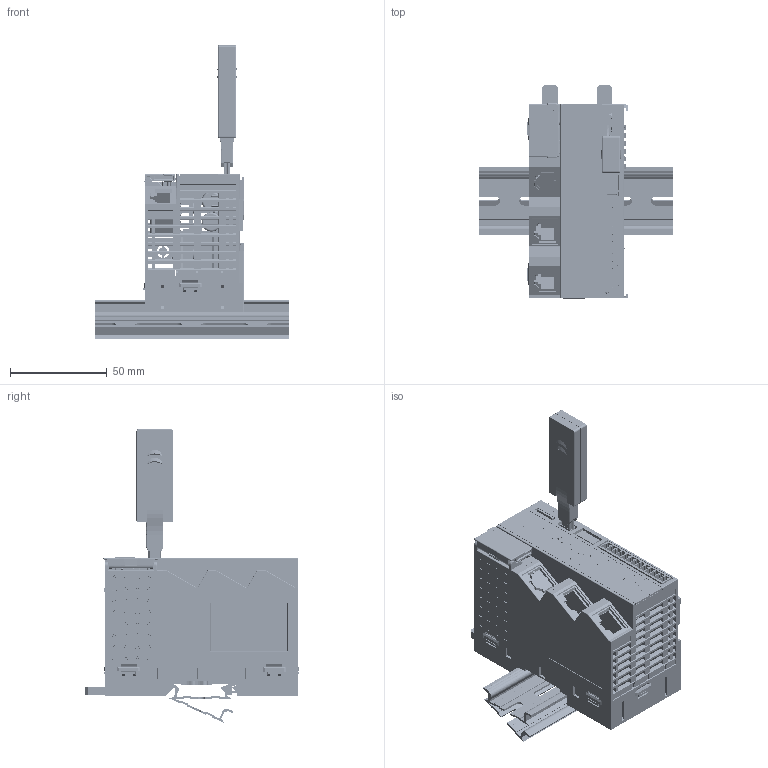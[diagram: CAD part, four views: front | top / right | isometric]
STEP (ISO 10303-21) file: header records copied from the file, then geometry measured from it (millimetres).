
FILE_DESCRIPTION((''),'2;1');
FILE_NAME('HCQ0-1200-D_ASM','2020-08-26T15:45:36',('杨沥'),(''),'CREO PARAMETRIC BY PTC INC, 2018050','CREO PARAMETRIC BY PTC INC, 2018050','');
FILE_SCHEMA(('AUTOMOTIVE_DESIGN { 1 0 10303 214 1 1 1 1 }'));
Products named in the file (172): HSMP2110000; HSMP2100000; HSMP2120000; HSMP2130000; HMSD1110000; HSMP1210000; CAO; HCQ0-1200-D-LOGO01; HCQX-EC01-D_SHELL-ALL_ASM; HCQ0-1200-D-PCB-POWER; MANIFOLD_SOLID_BREP_65422_1_6_1; MANIFOLD_SOLID_BREP_65421_1_2_1; MANIFOLD_SOLID_BREP_65426_1_2_1; MANIFOLD_SOLID_BREP_65427_1_2_1; MANIFOLD_SOLID_BREP_65428_1_2_1; MANIFOLD_SOLID_BREP_65429_1_2_1; MANIFOLD_SOLID_BREP_65432_1_2_1; MANIFOLD_SOLID_BREP_65430_1_2_1; MANIFOLD_SOLID_BREP_65437_1_3_1; KQ16A-6S_ASM; MANIFOLD_SOLID_BREP_140262; MANIFOLD_SOLID_BREP_140867; MANIFOLD_SOLID_BREP_141472; MANIFOLD_SOLID_BREP_142077; MANIFOLD_SOLID_BREP_142682; MANIFOLD_SOLID_BREP_143287; MANIFOLD_SOLID_BREP_143892; MANIFOLD_SOLID_BREP_144497; MANIFOLD_SOLID_BREP_145102; MANIFOLD_SOLID_BREP_145707; MANIFOLD_SOLID_BREP_146312; MANIFOLD_SOLID_BREP_146917; MANIFOLD_SOLID_BREP_147522; MANIFOLD_SOLID_BREP_148127; 15EDGRC-3_5-13P-13_ASM; FCD403-7M; MICEO_SD; MICRO-SD_CARD_CONNECTOR_ASM; MANIFOLD_SOLID_BREP_39083_1; MANIFOLD_SOLID_BREP_39084_1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
Assembly tree (205 placements, depth 4):
  HCQ0-1200-D_ASM
    HCQX-EC01-D_SHELL-ALL_ASM
      HSMP2110000
      HSMP2100000
      HSMP2120000
      HSMP2130000
      HMSD1110000
      HSMP1210000  x4
      CAO  x2
      HCQ0-1200-D-LOGO01
    HCQ0-1200-D-POWER-PCBA_ASM
      HCQ0-1200-D-PCB-POWER
      KQ16A-6S_ASM
        MANIFOLD_SOLID_BREP_65422_1_6_1
        MANIFOLD_SOLID_BREP_65421_1_2_1
        MANIFOLD_SOLID_BREP_65426_1_2_1
        MANIFOLD_SOLID_BREP_65427_1_2_1
        MANIFOLD_SOLID_BREP_65428_1_2_1
        MANIFOLD_SOLID_BREP_65429_1_2_1
        MANIFOLD_SOLID_BREP_65432_1_2_1
        MANIFOLD_SOLID_BREP_65430_1_2_1
        MANIFOLD_SOLID_BREP_65437_1_3_1
      15EDGRC-3_5-13P-13_ASM
        MANIFOLD_SOLID_BREP_140262
        MANIFOLD_SOLID_BREP_140867
        MANIFOLD_SOLID_BREP_141472
        MANIFOLD_SOLID_BREP_142077
        MANIFOLD_SOLID_BREP_142682
        MANIFOLD_SOLID_BREP_143287
        MANIFOLD_SOLID_BREP_143892
        MANIFOLD_SOLID_BREP_144497
        MANIFOLD_SOLID_BREP_145102
        MANIFOLD_SOLID_BREP_145707
        MANIFOLD_SOLID_BREP_146312
        MANIFOLD_SOLID_BREP_146917
        MANIFOLD_SOLID_BREP_147522
        MANIFOLD_SOLID_BREP_148127
      MICRO-SD_CARD_CONNECTOR_ASM
        FCD403-7M
        MICEO_SD
      SV-WIFI_ASM_1_ASM
        MANIFOLD_SOLID_BREP_39083_1
        MANIFOLD_SOLID_BREP_39084_1
        MANIFOLD_SOLID_BREP_39085_1
        MANIFOLD_SOLID_BREP_39086_1
        MANIFOLD_SOLID_BREP_39087_1
        MANIFOLD_SOLID_BREP_39088_1
        MANIFOLD_SOLID_BREP_39089_1
        MANIFOLD_SOLID_BREP_39090_1
        MANIFOLD_SOLID_BREP_39091_1
        MANIFOLD_SOLID_BREP_39092_1
        MANIFOLD_SOLID_BREP_39093_1
        MANIFOLD_SOLID_BREP_39094_1
        MANIFOLD_SOLID_BREP_39095_1
        MANIFOLD_SOLID_BREP_39096_1
        MANIFOLD_SOLID_BREP_39097_1
        MANIFOLD_SOLID_BREP_39098_1
        MANIFOLD_SOLID_BREP_39099_1
        MANIFOLD_SOLID_BREP_39100_1
        MANIFOLD_SOLID_BREP_39101_1
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Bounding box: 100 x 110.8 x 151.41 mm (x, y, z)
Volume: 114492.7 mm3; surface area: 184817 mm2
Topology: 423 solids, 423 shells, 22799 faces, 62068 edges, 40275 vertices
Faces by surface type: plane 16992, cylinder 2986, extrusion 1910, sphere 351, bspline 278, cone 189, torus 93
Entity records: 864668 total; most frequent: CARTESIAN_POINT 187405, ORIENTED_EDGE 104484, DIRECTION 89571, PRESENTATION_STYLE_ASSIGNMENT 53910, EDGE_CURVE 52242, STYLED_ITEM 51131, CURVE_STYLE 49567, VECTOR 44455
